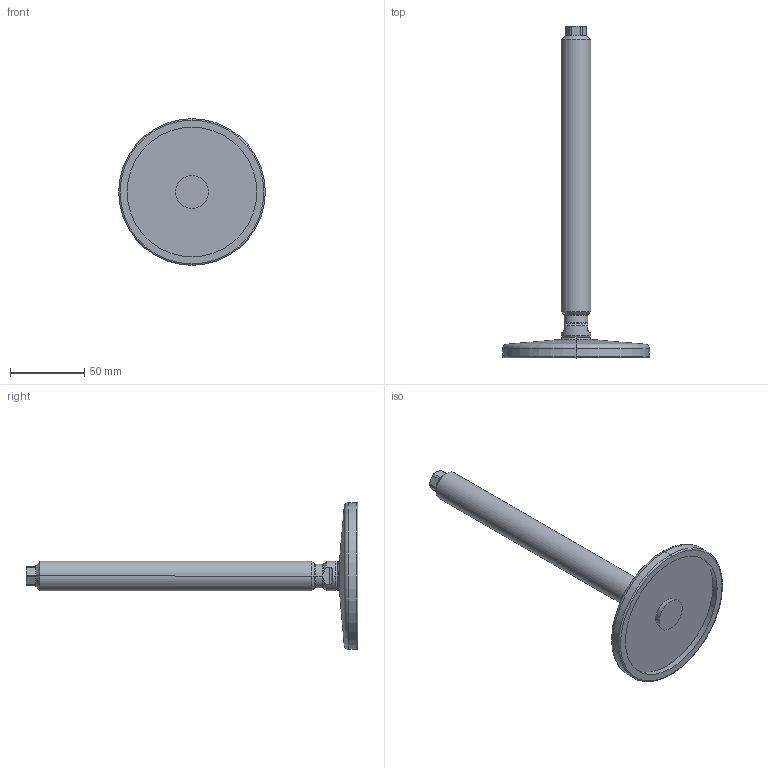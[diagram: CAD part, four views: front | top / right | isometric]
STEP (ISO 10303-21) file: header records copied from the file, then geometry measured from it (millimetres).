
FILE_DESCRIPTION (( 'STEP AP214' ), '1' );
FILE_NAME ('21-100-M20-200-D0-V.step', '2020-10-02T17:36:47', ( '' ), ( '' ), 'SwSTEP 2.0', 'SolidWorks 2019', '' );
FILE_SCHEMA (( 'AUTOMOTIVE_DESIGN' ));
Length unit declared in the file: millimetre
Products named in the file (3): WB21_Fußteller 21^WB21_V_D0-100-R12-B9 (M20); WB21_Spindel_V^WB21_V_M20-200; 21-100-M20-200-D0-V
Assembly tree (2 placements, depth 2):
  21-100-M20-200-D0-V
    WB21_Fußteller 21^WB21_V_D0-100-R12-B9 (M20)
    WB21_Spindel_V^WB21_V_M20-200
Bounding box: 99 x 224.02 x 99 mm (x, y, z)
Volume: 117816.7 mm3; surface area: 33432.4 mm2
Topology: 2 solids, 2 shells, 79 faces, 177 edges, 105 vertices
Faces by surface type: cylinder 23, cone 21, plane 21, torus 10, sphere 4
Entity records: 2434 total; most frequent: CARTESIAN_POINT 518, DIRECTION 406, ORIENTED_EDGE 354, EDGE_CURVE 177, AXIS2_PLACEMENT_3D 173, VERTEX_POINT 105, CIRCLE 89, EDGE_LOOP 82
